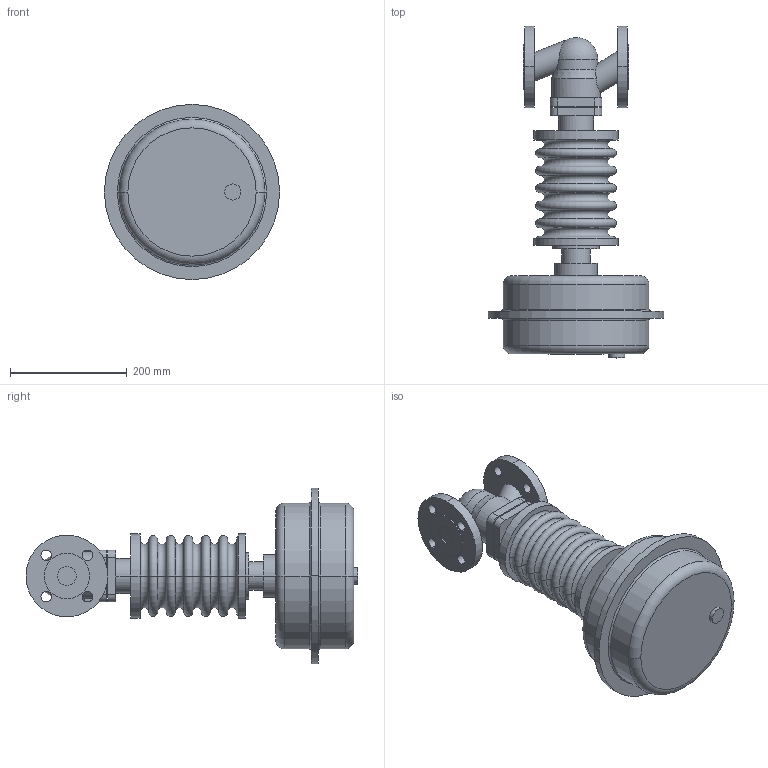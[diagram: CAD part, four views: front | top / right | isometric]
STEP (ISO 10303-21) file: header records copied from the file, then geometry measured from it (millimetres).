
FILE_DESCRIPTION(('OneSpaceDesigner STEP Export'),'2;1');
FILE_NAME('c000004153.stp','2010-04-15T11:03:45',(''),(''),'OneSpace Designer STEP processor for AP214 (Solid Model)','OneSpace Modeling 15.50B 03-Nov-2007 (C) CoCreate Software GmbH','');
FILE_SCHEMA(('AUTOMOTIVE_DESIGN { 1 0 10303 214 1 1 1 1 }'));
Length unit declared in the file: millimetre
Products named in the file (1): 1
Bounding box: 300 x 568.6 x 300 mm (x, y, z)
Volume: 10777895.6 mm3; surface area: 535724.6 mm2
Topology: 1 solids, 1 shells, 148 faces, 350 edges, 225 vertices
Faces by surface type: cylinder 66, plane 46, torus 32, cone 2, sphere 2
Entity records: 3927 total; most frequent: CARTESIAN_POINT 819, ORIENTED_EDGE 696, DIRECTION 580, EDGE_CURVE 348, AXIS2_PLACEMENT_3D 228, VERTEX_POINT 225, EDGE_LOOP 187, FACE_OUTER_BOUND 148
